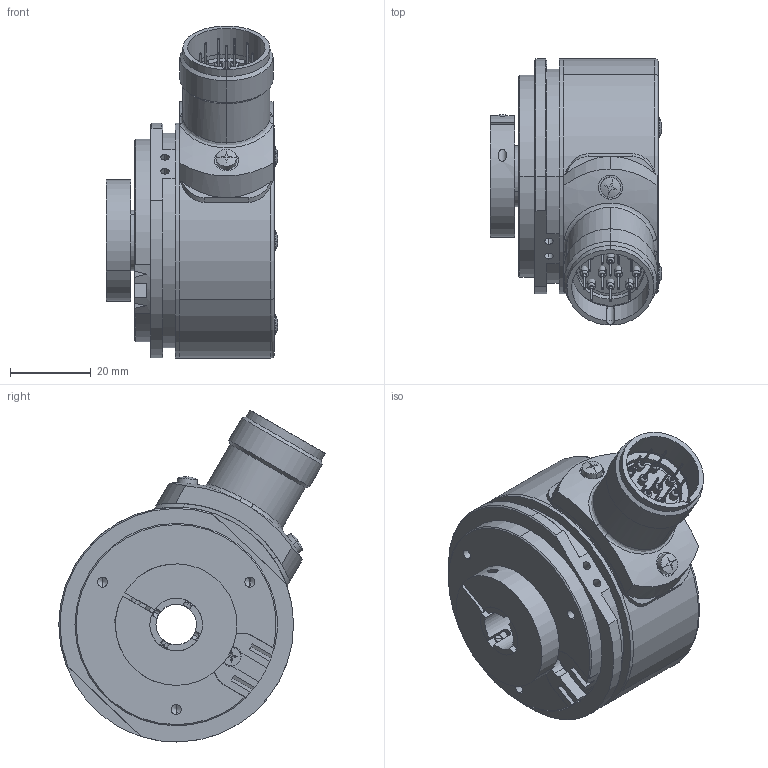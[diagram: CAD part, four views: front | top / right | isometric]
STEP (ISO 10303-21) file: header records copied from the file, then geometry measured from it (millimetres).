
FILE_DESCRIPTION (( 'STEP AP214' ), '1' );
FILE_NAME ('5825.16X2.XXXX.STEP', '2009-07-31T07:44:56', ( 'admin' ), ( 'Fritz Kübler GmbH' ), 'SwSTEP 2.0', 'SolidWorks 2009', '' );
FILE_SCHEMA (( 'AUTOMOTIVE_DESIGN' ));
Length unit declared in the file: millimetre
Products named in the file (1): 5825.16X2.XXXX
Bounding box: 42.38 x 65.81 x 82.01 mm (x, y, z)
Volume: 56712.3 mm3; surface area: 42522.8 mm2
Topology: 30 solids, 30 shells, 901 faces, 2052 edges, 1253 vertices
Faces by surface type: cylinder 401, plane 258, cone 148, torus 52, sphere 38, bspline 4
Entity records: 37161 total; most frequent: CARTESIAN_POINT 6172, DIRECTION 4726, ORIENTED_EDGE 4000, EDGE_CURVE 2000, AXIS2_PLACEMENT_3D 1942, VERTEX_POINT 1253, EDGE_LOOP 1057, CIRCLE 1044
